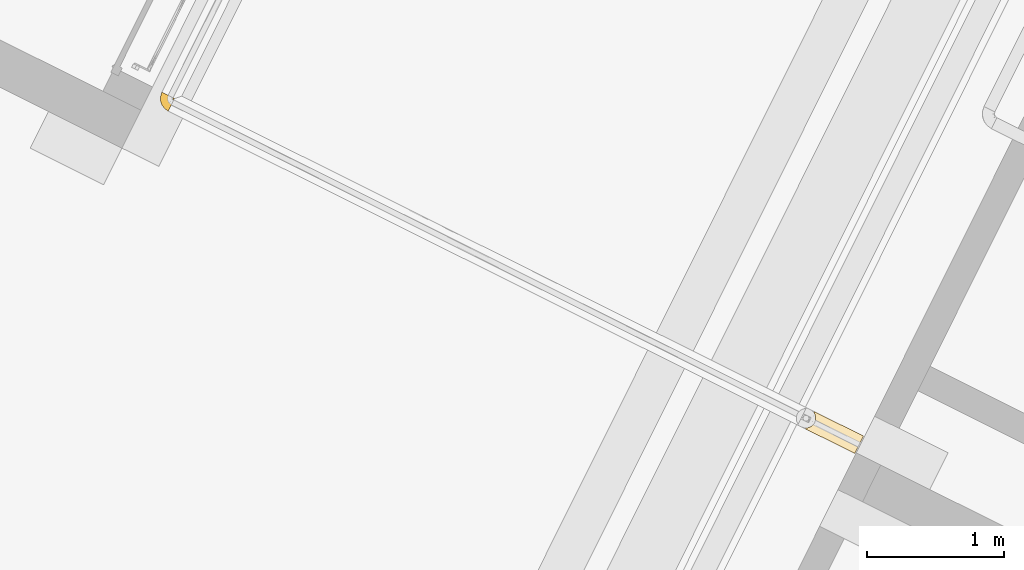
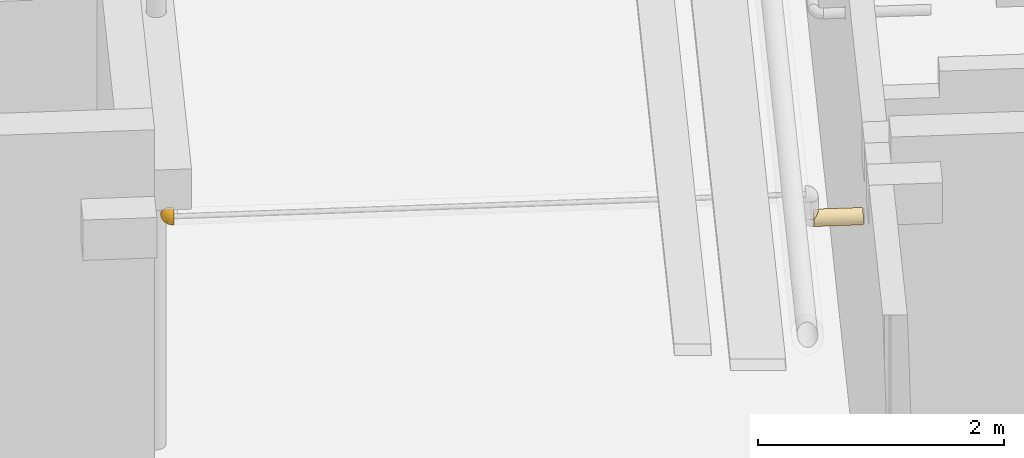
# One storey, part 52 of 91: 2 coverings.
"""IFC2X3 building model written with IfcOpenShell, lengths in metres."""

from ifc_helpers import new_model, entity, si_unit, converted_unit, derived_unit, direction, frame, origin, place, context, subcontext, project, spatial, faceted_brep, element, save


model = new_model("IFC2X3")

# Units and contexts
model_context = context("Model", 3, precision=1e-05, world=origin(), true_north=direction((0.894925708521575, 0.446215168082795)))
context_of_model = context(None, 3, precision=1e-05, world=origin(), true_north=direction((0.894925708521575, 0.446215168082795)))
body_context = subcontext(model_context, "Body", "Model", "MODEL_VIEW")
ifc_project = project(units=[si_unit("LENGTHUNIT", "METRE"), si_unit("AREAUNIT", "SQUARE_METRE"), si_unit("VOLUMEUNIT", "CUBIC_METRE"), converted_unit("PLANEANGLEUNIT", "DEGREE", entity("IfcRatioMeasure", 0.0174532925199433), si_unit("PLANEANGLEUNIT", "RADIAN"), dimensions=[0, 0, 0, 0, 0, 0, 0]), si_unit("MASSUNIT", "GRAM", prefix="KILO"), si_unit("TIMEUNIT", "SECOND"), si_unit("FREQUENCYUNIT", "HERTZ"), si_unit("THERMODYNAMICTEMPERATUREUNIT", "DEGREE_CELSIUS"), derived_unit("THERMALTRANSMITTANCEUNIT", [(si_unit("MASSUNIT", "GRAM", prefix="KILO"), 1), (si_unit("THERMODYNAMICTEMPERATUREUNIT", "KELVIN"), -1), (si_unit("TIMEUNIT", "SECOND"), -3)]), derived_unit("VOLUMETRICFLOWRATEUNIT", [(si_unit("LENGTHUNIT", "METRE"), 3), (si_unit("TIMEUNIT", "SECOND"), -1)]), si_unit("ELECTRICCURRENTUNIT", "AMPERE"), si_unit("ELECTRICVOLTAGEUNIT", "VOLT"), si_unit("POWERUNIT", "WATT"), si_unit("FORCEUNIT", "NEWTON", prefix="KILO"), si_unit("ILLUMINANCEUNIT", "LUX"), si_unit("LUMINOUSFLUXUNIT", "LUMEN"), si_unit("LUMINOUSINTENSITYUNIT", "CANDELA"), si_unit("PRESSUREUNIT", "PASCAL")], contexts=[model_context, context_of_model])

# Site, building, storey
site_placement = place(None, frame((218.228324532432, 584.720189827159, 0.0), z_axis=(0.0, 0.0, 1.0), x_axis=(0.446215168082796, 0.894925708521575, 0.0)))
site = spatial("IfcSite", under=ifc_project, at=site_placement, Name="Default", CompositionType="ELEMENT")
building_placement = place(site_placement, origin())
building = spatial("IfcBuilding", under=site, at=building_placement, CompositionType="ELEMENT")
storey_placement = place(building_placement, origin())
storey = spatial("IfcBuildingStorey", under=building, at=storey_placement, Name="0 - Piano Terra", CompositionType="ELEMENT", Elevation=0.0)

# Coverings
covering_1_placement = place(storey_placement, frame((-4.59454925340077, -4.99271314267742, 3.18982218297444)))
element("IfcCovering", 1, at=covering_1_placement, inside=storey, Name="Isolamento tubazione:Default", ObjectType="Isolamento tubazione:Default", PredefinedType="INSULATION", context=body_context, shape_type="Brep", body=[
    faceted_brep([(0.0015952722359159, 0.401836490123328, 0.0726772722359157), (0.0035254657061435, 0.401836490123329, 0.0891295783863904), (0.00920561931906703, 0.401836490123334, 0.104677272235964), (0.136148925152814, 0.40183649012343, 0.104677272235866), (0.1418290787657, 0.401836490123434, 0.0891295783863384), (0.143759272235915, 0.401836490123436, 0.0726772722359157), (0.141337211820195, 0.401836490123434, 0.0542798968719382), (0.134236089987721, 0.401836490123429, 0.0371362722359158), (0.122939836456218, 0.40183649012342, 0.0224147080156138), (0.108218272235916, 0.401836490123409, 0.0111184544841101), (0.0910746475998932, 0.401836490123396, 0.00401733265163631), (0.0726772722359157, 0.401836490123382, 0.0015952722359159), (0.0542798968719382, 0.401836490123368, 0.00401733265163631), (0.0371362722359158, 0.401836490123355, 0.0111184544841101), (0.0224147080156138, 0.401836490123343, 0.0224147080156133), (0.0111184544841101, 0.401836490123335, 0.0371362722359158), (0.00401733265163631, 0.401836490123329, 0.0542798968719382), (0.0542798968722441, 0.0, 0.1413372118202), (0.0371362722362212, 0.0, 0.134236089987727), (0.0224147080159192, 0.0, 0.122939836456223), (0.011118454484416, 0.0, 0.108218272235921), (0.00401733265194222, 0.0, 0.091074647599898), (0.00159527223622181, 0.0, 0.0726772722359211), (0.00401733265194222, 0.0, 0.0542798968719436), (0.011118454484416, 0.0, 0.0371362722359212), (0.0224147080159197, 0.0, 0.0224147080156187), (0.0371362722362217, 0.0, 0.0111184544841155), (0.0542798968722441, 0.0, 0.00401733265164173), (0.0726772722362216, 0.0, 0.00159527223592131), (0.0910746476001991, 0.0, 0.00401733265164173), (0.108218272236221, 0.0, 0.0111184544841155), (0.122939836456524, 0.0, 0.0224147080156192), (0.134236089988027, 0.0, 0.0371362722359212), (0.141337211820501, 0.0, 0.0542798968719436), (0.143759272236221, 0.0, 0.0726772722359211), (0.141337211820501, 0.0, 0.0910746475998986), (0.134236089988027, 0.0, 0.108218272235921), (0.122939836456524, 0.0, 0.122939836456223), (0.108218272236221, 0.0, 0.134236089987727), (0.0910746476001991, 0.0, 0.1413372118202), (0.072677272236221, 0.0, 0.143759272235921), (0.0161306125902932, 0.390765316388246, 0.11574844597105), (0.0249640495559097, 0.381147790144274, 0.125365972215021), (0.0471093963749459, 0.367512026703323, 0.139001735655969), (0.0596739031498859, 0.363953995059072, 0.14255976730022), (0.0726772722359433, 0.362754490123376, 0.143759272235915), (0.0354078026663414, 0.373308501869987, 0.133205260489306), (0.0856806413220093, 0.363953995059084, 0.142559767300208), (0.0982451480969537, 0.367512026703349, 0.139001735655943), (0.120390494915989, 0.381147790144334, 0.12536597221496), (0.10994674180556, 0.37330850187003, 0.133205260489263), (0.129223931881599, 0.390765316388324, 0.115748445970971)], [[[0, 1, 2, 3, 4, 5, 6, 7, 8, 9, 10, 11, 12, 13, 14, 15, 16]], [[17, 18, 19, 20, 21, 22, 23, 24, 25, 26, 27, 28, 29, 30, 31, 32, 33, 34, 35, 36, 37, 38, 39, 40]], [[33, 32, 7, 6]], [[34, 33, 6, 5]], [[8, 7, 32, 31]], [[10, 9, 30, 29]], [[11, 10, 29, 28]], [[31, 30, 9, 8]], [[12, 11, 28, 27]], [[13, 12, 27, 26]], [[26, 25, 14, 13]], [[16, 15, 24, 23]], [[0, 16, 23, 22]], [[25, 24, 15, 14]], [[1, 22, 21]], [[2, 21, 20]], [[41, 20, 19]], [[0, 22, 1]], [[2, 1, 21]], [[41, 2, 20]], [[19, 42, 41]], [[43, 18, 17]], [[17, 40, 44]], [[45, 44, 40]], [[46, 42, 18]], [[44, 43, 17]], [[46, 18, 43]], [[18, 42, 19]], [[47, 45, 40]], [[47, 40, 39]], [[48, 39, 38]], [[48, 47, 39]], [[49, 50, 38]], [[48, 38, 50]], [[38, 37, 49]], [[51, 37, 36]], [[3, 36, 35]], [[4, 35, 34]], [[51, 36, 3]], [[3, 35, 4]], [[34, 5, 4]], [[37, 51, 49]], [[48, 50, 49, 51, 3, 2, 41, 42, 46, 43, 44, 45, 47]]]),
])
covering_2_placement = place(storey_placement, frame((-4.59456725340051, 0.615325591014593, 3.42730411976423)))
element("IfcCovering", 2, at=covering_2_placement, inside=storey, Name="Isolamento tubazione:Default", ObjectType="Isolamento tubazione:Default", PredefinedType="INSULATION", context=body_context, shape_type="Brep", body=[
    faceted_brep([(0.0454798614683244, 0.00159554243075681, 0.138380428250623), (0.0331866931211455, 0.00159552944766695, 0.131807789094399), (0.022412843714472, 0.00159551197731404, 0.122963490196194), (0.01357198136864, 0.00159549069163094, 0.1121876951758), (0.00700349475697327, 0.00159546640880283, 0.0998946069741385), (0.00295951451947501, 0.00159544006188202, 0.0865565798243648), (0.00159527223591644, 0.00159541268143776, 0.0726953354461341), (0.00296225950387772, 0.00159538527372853, 0.0588202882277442), (0.00701017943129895, 0.00159535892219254, 0.045479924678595), (0.0135828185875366, 0.00159533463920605, 0.0331867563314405), (0.0224271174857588, 0.00159531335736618, 0.0224129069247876), (0.0332029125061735, 0.0015952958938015, 0.0135720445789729), (0.045496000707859, 0.00159528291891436, 0.00700355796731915), (0.0588340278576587, 0.00159527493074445, 0.00295957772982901), (0.0726952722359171, 0.00159527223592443, 0.00159533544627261), (0.0834870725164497, 0.00159527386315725, 0.00241911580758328), (0.094018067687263, 0.00159527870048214, 0.00486799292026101), (0.104058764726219, 0.00159528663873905, 0.00888670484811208), (0.104058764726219, 0.0015952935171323, 0.0123688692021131), (0.104058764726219, 0.001595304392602, 0.0178745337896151), (0.104058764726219, 0.00159531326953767, 0.0223684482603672), (0.104058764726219, 0.00159532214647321, 0.0268623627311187), (0.104058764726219, 0.00159533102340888, 0.0313562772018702), (0.104058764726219, 0.00159533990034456, 0.0358501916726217), (0.104058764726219, 0.00159534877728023, 0.0403441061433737), (0.104058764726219, 0.0015953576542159, 0.0448380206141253), (0.104058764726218, 0.00159536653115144, 0.0493319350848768), (0.104058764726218, 0.00159537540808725, 0.0538258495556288), (0.104058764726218, 0.00159538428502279, 0.0583197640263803), (0.104058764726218, 0.00159539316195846, 0.0628136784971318), (0.104058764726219, 0.001595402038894, 0.0673075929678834), (0.104058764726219, 0.00159541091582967, 0.0718015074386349), (0.104058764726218, 0.00159541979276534, 0.0762954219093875), (0.104058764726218, 0.00159542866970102, 0.080789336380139), (0.104058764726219, 0.0015954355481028, 0.0842715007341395), (0.104058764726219, 0.00159544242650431, 0.087753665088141), (0.104058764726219, 0.0015954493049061, 0.0912358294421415), (0.104058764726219, 0.00159545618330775, 0.0947179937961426), (0.104058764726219, 0.00159546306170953, 0.0982001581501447), (0.104058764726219, 0.00159546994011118, 0.101682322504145), (0.104058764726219, 0.00159547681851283, 0.105164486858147), (0.104058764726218, 0.00159548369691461, 0.108646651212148), (0.104058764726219, 0.00159549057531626, 0.112128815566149), (0.104058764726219, 0.00159549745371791, 0.11561097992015), (0.104058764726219, 0.00159550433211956, 0.119093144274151), (0.104058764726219, 0.00159551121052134, 0.122575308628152), (0.104058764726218, 0.00159551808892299, 0.126057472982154), (0.104058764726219, 0.00159552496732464, 0.129539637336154), (0.104058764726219, 0.00159553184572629, 0.133021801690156), (0.104058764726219, 0.00159553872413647, 0.136503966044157), (0.0940102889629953, 0.00159554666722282, 0.140525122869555), (0.0834790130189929, 0.00159555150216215, 0.142972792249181), (0.0726952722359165, 0.00159555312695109, 0.143795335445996), (0.0588202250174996, 0.00159555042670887, 0.142428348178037), (0.104695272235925, 0.0174956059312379, 0.141948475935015), (0.104695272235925, 0.00223204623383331, 0.136503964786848), (0.104695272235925, 0.00223203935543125, 0.133021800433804), (0.104695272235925, 0.00223203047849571, 0.128527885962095), (0.104695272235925, 0.00223202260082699, 0.124539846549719), (0.104695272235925, 0.00223201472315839, 0.120551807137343), (0.104695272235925, 0.00223200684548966, 0.116563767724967), (0.104695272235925, 0.00223199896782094, 0.11257572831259), (0.104695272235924, 0.00223199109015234, 0.108587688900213), (0.104695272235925, 0.00223198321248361, 0.104599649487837), (0.104695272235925, 0.00223197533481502, 0.100611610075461), (0.104695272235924, 0.00223196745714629, 0.0966235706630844), (0.104695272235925, 0.00223195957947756, 0.0926355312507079), (0.104695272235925, 0.00223195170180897, 0.0886474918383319), (0.104695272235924, 0.00223194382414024, 0.0846594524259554), (0.104695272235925, 0.00223193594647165, 0.0806714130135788), (0.104695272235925, 0.00223192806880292, 0.0766833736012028), (0.104695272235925, 0.00223192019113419, 0.0726953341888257), (0.104695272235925, 0.00223191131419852, 0.068201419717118), (0.104695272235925, 0.00223190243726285, 0.0637075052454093), (0.104695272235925, 0.00223189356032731, 0.0592135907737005), (0.104695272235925, 0.00223188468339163, 0.0547196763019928), (0.104695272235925, 0.00223187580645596, 0.0502257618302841), (0.104695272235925, 0.00223186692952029, 0.0457318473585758), (0.104695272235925, 0.00223185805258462, 0.0412379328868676), (0.104695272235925, 0.00223184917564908, 0.0367440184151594), (0.104695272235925, 0.00223184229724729, 0.0332618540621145), (0.104695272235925, 0.00223183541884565, 0.0297796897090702), (0.104695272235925, 0.002231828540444, 0.0262975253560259), (0.104695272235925, 0.00223182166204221, 0.0228153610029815), (0.104695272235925, 0.00223181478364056, 0.0193331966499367), (0.104695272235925, 0.00223180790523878, 0.0158510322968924), (0.104695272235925, 0.00223180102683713, 0.012368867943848), (0.104695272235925, 0.00223179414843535, 0.00888670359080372), (0.104695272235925, 0.0174953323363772, 0.00344213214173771), (0.104695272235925, 0.0335952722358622, 0.00159527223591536), (0.104695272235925, 0.0519973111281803, 0.00401790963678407), (0.104695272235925, 0.0691452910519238, 0.0111207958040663), (0.104695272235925, 0.0838706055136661, 0.0224198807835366), (0.104695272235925, 0.0951697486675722, 0.0371451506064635), (0.104695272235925, 0.102272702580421, 0.0542931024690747), (0.104695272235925, 0.104695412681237, 0.0726951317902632), (0.104695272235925, 0.102272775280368, 0.0910971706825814), (0.104695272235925, 0.0951698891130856, 0.108245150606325), (0.104695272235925, 0.0838708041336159, 0.122970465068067), (0.104695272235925, 0.0691455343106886, 0.134269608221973), (0.104695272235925, 0.0519975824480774, 0.141372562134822), (0.104695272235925, 0.033595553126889, 0.143795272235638), (0.104235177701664, 0.00203533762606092, 0.118228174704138), (0.104273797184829, 0.00207248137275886, 0.122545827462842), (0.104258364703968, 0.00205822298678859, 0.0397509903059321), (0.104268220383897, 0.00206733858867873, 0.0434848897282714), (0.104245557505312, 0.00204582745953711, 0.0586470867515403), (0.104241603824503, 0.00204188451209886, 0.0785423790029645), (0.104248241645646, 0.00204852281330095, 0.0745557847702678), (0.104245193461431, 0.00204537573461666, 0.0141099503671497), (0.104277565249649, 0.00207557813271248, 0.0179704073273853), (0.104245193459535, 0.00204561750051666, 0.136503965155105), (0.104245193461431, 0.00204560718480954, 0.131280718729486), (0.104245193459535, 0.0020453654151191, 0.00888670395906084), (0.104267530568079, 0.00206683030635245, 0.102605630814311), (0.104302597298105, 0.00209625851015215, 0.0213229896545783), (0.104232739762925, 0.00203258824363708, 0.0246154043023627), (0.104261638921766, 0.00206128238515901, 0.0350029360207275), (0.104225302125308, 0.0020247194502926, 0.0929769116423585), (0.104248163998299, 0.0020484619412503, 0.082527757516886), (0.104258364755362, 0.0020582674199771, 0.0622205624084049), (0.104268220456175, 0.00206738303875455, 0.0659544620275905), (0.104266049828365, 0.00206541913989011, 0.0706145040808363), (0.104241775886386, 0.00204199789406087, 0.0474636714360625), (0.104225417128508, 0.00202476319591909, 0.0513997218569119), (0.104310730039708, 0.00210254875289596, 0.0317135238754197), (0.104214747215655, 0.00201287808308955, 0.0968571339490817), (0.104278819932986, 0.00207685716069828, 0.114495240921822), (0.104221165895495, 0.002020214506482, 0.127284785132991), (0.104101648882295, 0.00169881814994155, 0.00888670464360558), (0.104144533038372, 0.00180234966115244, 0.00888670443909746), (0.104194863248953, 0.00192385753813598, 0.00888670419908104), (0.104194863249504, 0.00192410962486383, 0.136503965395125), (0.104144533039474, 0.00180260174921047, 0.136503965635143), (0.104101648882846, 0.00169907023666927, 0.136503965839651), (0.104591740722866, 0.00218916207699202, 0.13650396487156), (0.104488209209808, 0.00214627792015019, 0.13650396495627), (0.104366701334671, 0.00209594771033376, 0.136503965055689), (0.104366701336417, 0.00209569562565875, 0.00888670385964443), (0.104488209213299, 0.00214602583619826, 0.00888670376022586), (0.104591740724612, 0.00218890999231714, 0.00888670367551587), (0.104237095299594, 0.00203732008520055, 0.110760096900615), (0.104249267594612, 0.00204959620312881, 0.106694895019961), (0.104264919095, 0.00206441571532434, 0.086653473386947), (0.104239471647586, 0.00203960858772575, 0.028462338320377), (0.104235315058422, 0.00203535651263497, 0.0550728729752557), (0.102165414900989, 0.0107009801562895, 0.00526583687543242), (0.0936538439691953, 0.0306367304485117, 0.00159527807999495), (0.0978873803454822, 0.0159641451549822, 0.00344213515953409), (0.0886952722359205, 0.0293080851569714, 0.0015952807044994), (0.0984867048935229, 0.00684362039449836, 0.0057220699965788), (0.0984711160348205, 0.00930189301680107, 0.00511520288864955), (0.100314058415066, 0.0210748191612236, 0.00262107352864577), (0.0919269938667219, 0.0125022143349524, 0.0032406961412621), (0.0896593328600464, 0.00675338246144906, 0.00344307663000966), (0.0818096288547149, 0.00912015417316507, 0.00203657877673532), (0.0769824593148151, 0.0175952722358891, 0.00159530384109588), (0.0851072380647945, 0.0121021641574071, 0.002270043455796), (0.0745981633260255, 0.00869695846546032, 0.00159532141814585), (0.0748388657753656, 0.00959527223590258, 0.00159531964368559), (0.0828388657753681, 0.0234516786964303, 0.00159529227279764), (0.0937470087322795, 0.00790779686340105, 0.00428251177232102), (0.0926030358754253, 0.0175207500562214, 0.00261595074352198), (0.101340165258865, 0.00824389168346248, 0.00596924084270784), (0.0975935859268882, 0.0316923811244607, 0.00159527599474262), (0.0991745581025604, 0.032116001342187, 0.00159527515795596), (0.0166527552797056, 0.0513531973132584, 0.0560753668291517), (0.00664134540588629, 0.0334550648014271, 0.0726952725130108), (0.0212856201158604, 0.0621960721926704, 0.0726952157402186), (0.0830749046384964, 0.044058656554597, 0.00333914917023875), (0.0740124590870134, 0.0415818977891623, 0.00401792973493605), (0.0820370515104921, 0.0562970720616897, 0.00700739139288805), (0.0852106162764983, 0.0743130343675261, 0.0162877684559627), (0.0653332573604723, 0.0647181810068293, 0.0156136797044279), (0.0659142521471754, 0.0810428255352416, 0.0294122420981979), (0.0944137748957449, 0.0599045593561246, 0.00700738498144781), (0.0916290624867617, 0.0464234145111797, 0.00313010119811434), (0.0196076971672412, 0.0431686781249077, 0.0391717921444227), (0.0345360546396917, 0.0717545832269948, 0.0495291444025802), (0.072835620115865, 0.0996493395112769, 0.0726951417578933), (0.0839077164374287, 0.101283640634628, 0.0593301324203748), (0.0585962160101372, 0.0920698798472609, 0.0578919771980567), (0.00799662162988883, 0.0272221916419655, 0.052050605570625), (0.0401679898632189, 0.0128832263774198, 0.00998582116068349), (0.053391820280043, 0.0133353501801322, 0.00465392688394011), (0.0603928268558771, 0.0247248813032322, 0.00390544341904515), (0.0773558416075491, 0.0953795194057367, 0.0454863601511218), (0.0864225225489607, 0.0880937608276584, 0.0294122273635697), (0.0458969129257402, 0.0514627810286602, 0.0177276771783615), (0.0527474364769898, 0.0382311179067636, 0.00898705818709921), (0.0315472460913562, 0.0401266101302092, 0.0228237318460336), (0.0662243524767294, 0.0339145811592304, 0.00397603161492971), (0.0436746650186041, 0.0254211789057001, 0.00998579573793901), (0.0206418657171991, 0.02387067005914, 0.0275825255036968), (0.0311054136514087, 0.0221772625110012, 0.017173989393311), (0.0440946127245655, 0.0850050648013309, 0.0726951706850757), (0.0578511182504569, 0.0859787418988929, 0.0428092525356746), (0.0131311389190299, 0.0257674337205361, 0.0391722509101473), (0.0357277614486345, 0.0598721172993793, 0.031986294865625), (0.0489988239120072, 0.0738490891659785, 0.033361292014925), (0.0600686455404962, 0.0507519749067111, 0.0104666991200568), (0.0745981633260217, 0.00869723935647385, 0.143795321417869), (0.0537646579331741, 0.0149197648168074, 0.140732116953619), (0.0845731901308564, 0.101530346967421, 0.0854827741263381), (0.00708795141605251, 0.0235292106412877, 0.0933248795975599), (0.068892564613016, 0.0924859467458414, 0.099903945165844), (0.0643595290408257, 0.0951344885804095, 0.0858882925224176), (0.0506642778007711, 0.0851912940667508, 0.0949204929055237), (0.088669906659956, 0.0979598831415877, 0.0999039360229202), (0.0202496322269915, 0.0245173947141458, 0.117134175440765), (0.0161330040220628, 0.0351605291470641, 0.106202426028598), (0.0113165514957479, 0.0174164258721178, 0.106202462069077), (0.0345599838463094, 0.071730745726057, 0.095959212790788), (0.087347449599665, 0.0434769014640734, 0.142534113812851), (0.0886952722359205, 0.0293083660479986, 0.143795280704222), (0.0936538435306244, 0.0306370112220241, 0.143795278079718), (0.096695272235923, 0.031451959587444, 0.143795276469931), (0.0755634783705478, 0.0576408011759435, 0.136601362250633), (0.0879071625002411, 0.0583744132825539, 0.138383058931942), (0.0709877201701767, 0.0689106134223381, 0.129102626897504), (0.0822993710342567, 0.0871191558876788, 0.115978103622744), (0.0887319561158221, 0.0751665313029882, 0.129102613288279), (0.0577193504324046, 0.0776307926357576, 0.114685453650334), (0.0598098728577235, 0.037087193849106, 0.139171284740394), (0.0588934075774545, 0.0249231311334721, 0.141097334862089), (0.0696054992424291, 0.0275835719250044, 0.142831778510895), (0.0371897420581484, 0.0564257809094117, 0.117792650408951), (0.0315026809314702, 0.0388240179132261, 0.12312886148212), (0.0476955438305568, 0.0475958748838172, 0.130608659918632), (0.030093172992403, 0.0211123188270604, 0.12765026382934), (0.0412191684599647, 0.0178452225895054, 0.135396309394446), (0.0456113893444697, 0.0299225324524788, 0.135396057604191), (0.0158905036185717, 0.0496337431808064, 0.0899873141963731), (0.0250740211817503, 0.0549299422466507, 0.104007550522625), (0.0748388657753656, 0.00959555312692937, 0.143795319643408), (0.0769824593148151, 0.017595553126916, 0.143795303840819), (0.0371847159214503, 0.0665889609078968, 0.108006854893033), (0.0961308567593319, 0.0461902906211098, 0.142519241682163), (0.053979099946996, 0.0634584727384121, 0.125152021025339), (0.0604190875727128, 0.0537117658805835, 0.13378005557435), (0.0711046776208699, 0.0461299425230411, 0.139699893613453), (0.0828388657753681, 0.0234519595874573, 0.143795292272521), (0.0991745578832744, 0.0321162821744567, 0.143795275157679), (0.100243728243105, 0.0245406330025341, 0.143269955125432), (0.0971549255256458, 0.00369049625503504, 0.139559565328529), (0.0966155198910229, 0.00585765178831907, 0.140018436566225), (0.0896526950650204, 0.00675877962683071, 0.141949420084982), (0.094276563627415, 0.0235854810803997, 0.143380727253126), (0.098650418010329, 0.00908015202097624, 0.140181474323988), (0.0984883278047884, 0.00682491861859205, 0.139663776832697), (0.0978873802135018, 0.0159644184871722, 0.141948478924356), (0.0894411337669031, 0.0102791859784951, 0.142312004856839), (0.0919265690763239, 0.0125074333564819, 0.14215070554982), (0.0925466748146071, 0.0176025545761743, 0.142791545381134), (0.101856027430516, 0.014219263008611, 0.141192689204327)], [[[0, 1, 2, 3, 4, 5, 6, 7, 8, 9, 10, 11, 12, 13, 14, 15, 16, 17, 18, 19, 20, 21, 22, 23, 24, 25, 26, 27, 28, 29, 30, 31, 32, 33, 34, 35, 36, 37, 38, 39, 40, 41, 42, 43, 44, 45, 46, 47, 48, 49, 50, 51, 52, 53]], [[54, 55, 56, 57, 58, 59, 60, 61, 62, 63, 64, 65, 66, 67, 68, 69, 70, 71, 72, 73, 74, 75, 76, 77, 78, 79, 80, 81, 82, 83, 84, 85, 86, 87, 88, 89, 90, 91, 92, 93, 94, 95, 96, 97, 98, 99, 100, 101]], [[102, 59, 103]], [[24, 104, 105]], [[75, 74, 106]], [[107, 32, 108]], [[109, 85, 110]], [[33, 32, 107]], [[111, 48, 47, 112]], [[18, 109, 19]], [[85, 109, 113, 86]], [[112, 57, 56]], [[39, 38, 114, 40]], [[20, 115, 116]], [[117, 79, 104]], [[65, 118, 67, 66]], [[119, 33, 107]], [[29, 120, 121]], [[108, 122, 71]], [[110, 19, 109]], [[108, 32, 31]], [[107, 108, 70]], [[121, 30, 29]], [[25, 123, 26]], [[78, 77, 105]], [[124, 76, 75]], [[22, 125, 117]], [[126, 37, 118]], [[102, 43, 127]], [[112, 47, 128]], [[58, 128, 103]], [[18, 17, 129, 130, 131, 113, 109]], [[48, 111, 132, 133, 134, 49]], [[56, 55, 135, 136, 137, 111]], [[86, 113, 138, 139, 140, 87]], [[56, 111, 112]], [[57, 112, 128]], [[103, 59, 58]], [[25, 24, 105]], [[128, 46, 103]], [[58, 57, 128]], [[20, 116, 21]], [[110, 84, 115]], [[115, 20, 19]], [[61, 127, 141]], [[142, 114, 63]], [[80, 125, 81]], [[127, 61, 60]], [[102, 103, 44]], [[103, 46, 45, 44]], [[119, 143, 34]], [[70, 69, 107]], [[143, 118, 36]], [[69, 119, 107]], [[71, 70, 108]], [[72, 121, 73]], [[31, 122, 108]], [[122, 72, 71]], [[31, 30, 122]], [[121, 72, 122]], [[35, 34, 143, 36]], [[68, 143, 119]], [[67, 143, 68]], [[119, 69, 68]], [[143, 67, 118]], [[36, 118, 37]], [[126, 114, 38]], [[42, 41, 141]], [[65, 126, 118]], [[64, 114, 126]], [[63, 114, 64]], [[126, 65, 64]], [[142, 40, 114]], [[41, 142, 141]], [[142, 62, 141]], [[43, 42, 127]], [[60, 59, 102]], [[61, 141, 62]], [[142, 63, 62]], [[127, 42, 141]], [[102, 127, 60]], [[116, 82, 144]], [[144, 21, 116]], [[83, 116, 115]], [[80, 79, 117]], [[23, 22, 117]], [[22, 21, 144]], [[81, 125, 144]], [[125, 80, 117]], [[24, 23, 104]], [[38, 37, 126]], [[110, 85, 84]], [[104, 78, 105]], [[124, 123, 76]], [[77, 123, 105]], [[105, 123, 25]], [[77, 76, 123]], [[124, 26, 123]], [[124, 27, 26]], [[145, 27, 124]], [[78, 104, 79]], [[117, 104, 23]], [[120, 73, 121]], [[30, 121, 122]], [[106, 145, 75]], [[74, 73, 120]], [[145, 124, 75]], [[120, 29, 28]], [[145, 28, 27]], [[106, 28, 145]], [[34, 33, 119]], [[128, 47, 46]], [[144, 125, 22]], [[81, 144, 82]], [[116, 83, 82]], [[142, 41, 40]], [[83, 115, 84]], [[19, 110, 115]], [[44, 43, 102]], [[106, 120, 28]], [[120, 106, 74]], [[87, 140, 139, 146]], [[147, 148, 149]], [[113, 150, 151]], [[88, 152, 89]], [[151, 138, 113]], [[129, 17, 16]], [[151, 150, 153]], [[130, 129, 154]], [[154, 129, 16]], [[155, 156, 157]], [[15, 14, 158, 159]], [[159, 155, 15]], [[160, 153, 157]], [[153, 150, 161]], [[151, 162, 148]], [[16, 15, 154]], [[146, 152, 88]], [[153, 161, 157]], [[163, 146, 139]], [[152, 146, 148]], [[87, 146, 88]], [[148, 147, 152]], [[152, 147, 164, 165, 89]], [[163, 139, 138]], [[162, 151, 153]], [[163, 151, 148]], [[153, 160, 162]], [[149, 148, 162]], [[151, 163, 138]], [[149, 162, 160]], [[146, 163, 148]], [[161, 130, 154]], [[161, 131, 130]], [[150, 113, 131]], [[131, 161, 150]], [[157, 161, 154]], [[155, 157, 154]], [[157, 156, 160]], [[15, 155, 154]], [[156, 155, 159]], [[166, 167, 168]], [[169, 170, 171]], [[172, 173, 174]], [[171, 175, 176]], [[177, 166, 178]], [[179, 180, 181]], [[7, 167, 182]], [[8, 7, 182]], [[183, 184, 12]], [[185, 156, 159, 158]], [[186, 93, 187]], [[94, 180, 95]], [[188, 189, 190]], [[93, 186, 94]], [[91, 175, 172]], [[158, 14, 13]], [[93, 92, 187]], [[185, 191, 156]], [[192, 189, 185]], [[180, 94, 186]], [[193, 10, 9]], [[194, 10, 193]], [[185, 158, 184]], [[184, 13, 12]], [[91, 172, 92]], [[178, 168, 195]], [[196, 181, 186]], [[158, 13, 184]], [[192, 194, 190]], [[197, 182, 177]], [[197, 9, 8]], [[182, 166, 177]], [[91, 90, 175]], [[188, 190, 198]], [[7, 6, 167]], [[193, 197, 177]], [[194, 192, 183]], [[184, 192, 185]], [[188, 199, 173]], [[11, 183, 12]], [[173, 172, 171]], [[181, 195, 179]], [[187, 172, 174]], [[90, 89, 165, 164]], [[189, 192, 190]], [[160, 156, 191]], [[176, 169, 171]], [[160, 170, 149]], [[189, 188, 200]], [[11, 10, 194]], [[184, 183, 192]], [[194, 183, 11]], [[194, 193, 190]], [[193, 177, 190]], [[198, 190, 177]], [[177, 178, 198]], [[178, 196, 199]], [[200, 171, 170]], [[199, 188, 198]], [[167, 166, 182]], [[178, 166, 168]], [[172, 187, 92]], [[186, 187, 174]], [[200, 188, 173]], [[191, 185, 189]], [[171, 200, 173]], [[191, 200, 170]], [[200, 191, 189]], [[160, 191, 170]], [[176, 90, 164]], [[172, 175, 171]], [[90, 176, 175]], [[176, 164, 147, 149]], [[176, 149, 169]], [[149, 170, 169]], [[196, 186, 174]], [[178, 195, 181]], [[199, 196, 174]], [[178, 181, 196]], [[173, 199, 174]], [[178, 199, 198]], [[9, 197, 193]], [[8, 182, 197]], [[181, 180, 186]], [[95, 180, 179]], [[53, 201, 202]], [[95, 179, 203]], [[4, 204, 5]], [[205, 203, 206]], [[206, 207, 205]], [[208, 203, 205]], [[209, 210, 211]], [[212, 195, 168]], [[213, 214, 215, 216]], [[217, 218, 219]], [[97, 220, 98]], [[221, 218, 99]], [[222, 219, 220]], [[221, 99, 98]], [[220, 97, 208]], [[223, 224, 225]], [[226, 227, 228]], [[229, 230, 231]], [[204, 232, 167]], [[233, 232, 210]], [[2, 1, 229]], [[2, 229, 209]], [[233, 212, 232]], [[204, 4, 211]], [[6, 5, 167]], [[96, 208, 97]], [[167, 5, 204]], [[53, 52, 201]], [[230, 202, 231]], [[3, 2, 209]], [[230, 1, 0]], [[227, 210, 209]], [[224, 223, 231]], [[0, 53, 202]], [[99, 218, 100]], [[226, 233, 227]], [[204, 210, 232]], [[224, 201, 234, 235]], [[168, 167, 232]], [[3, 211, 4]], [[233, 236, 212]], [[218, 213, 237]], [[212, 168, 232]], [[219, 222, 238]], [[239, 223, 240]], [[222, 220, 205]], [[221, 220, 219]], [[222, 205, 207]], [[238, 226, 228]], [[213, 240, 214]], [[100, 237, 101]], [[204, 211, 210]], [[209, 211, 3]], [[209, 229, 227]], [[229, 231, 227]], [[228, 227, 231]], [[223, 228, 231]], [[239, 219, 238]], [[224, 231, 202]], [[225, 240, 223]], [[220, 221, 98]], [[214, 240, 241]], [[218, 221, 219]], [[237, 213, 216]], [[213, 218, 217]], [[237, 216, 242, 101]], [[218, 237, 100]], [[201, 224, 202]], [[225, 224, 235]], [[235, 241, 225]], [[240, 225, 241]], [[227, 233, 210]], [[236, 233, 226]], [[238, 236, 226]], [[207, 236, 222]], [[203, 208, 96]], [[220, 208, 205]], [[95, 203, 96]], [[203, 179, 206]], [[179, 195, 206]], [[207, 195, 212]], [[195, 207, 206]], [[207, 212, 236]], [[238, 222, 236]], [[239, 238, 228]], [[223, 239, 228]], [[239, 240, 217]], [[1, 230, 229]], [[0, 202, 230]], [[239, 217, 219]], [[213, 217, 240]], [[243, 101, 242, 216, 215]], [[244, 245, 246]], [[214, 247, 215]], [[111, 248, 249]], [[137, 136, 250]], [[246, 51, 50]], [[246, 245, 251]], [[50, 244, 246]], [[246, 234, 51]], [[241, 252, 253]], [[132, 245, 133]], [[250, 247, 253]], [[235, 234, 251]], [[50, 134, 244]], [[54, 254, 55]], [[249, 132, 111]], [[50, 49, 134]], [[133, 244, 134]], [[245, 244, 133]], [[245, 249, 251]], [[254, 54, 243]], [[247, 243, 215]], [[111, 137, 248]], [[241, 253, 214]], [[250, 254, 243]], [[250, 243, 247]], [[101, 243, 54]], [[252, 241, 235]], [[253, 247, 214]], [[248, 250, 253]], [[252, 249, 248]], [[250, 248, 137]], [[252, 248, 253]], [[250, 136, 254]], [[254, 136, 135, 55]], [[252, 235, 251]], [[51, 234, 201, 52]], [[251, 249, 252]], [[132, 249, 245]], [[251, 234, 246]]]),
])

save(model, "model.ifc")
